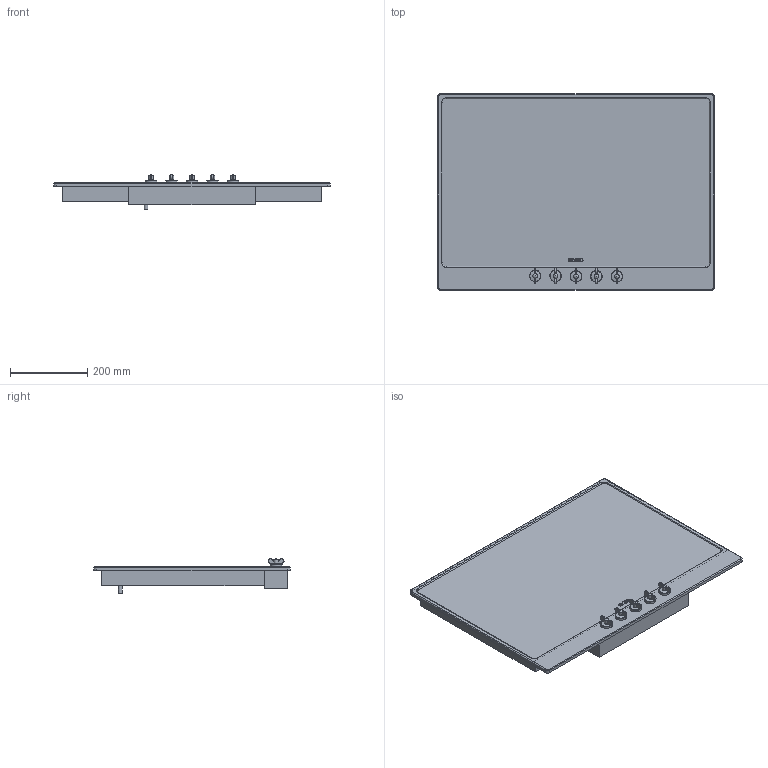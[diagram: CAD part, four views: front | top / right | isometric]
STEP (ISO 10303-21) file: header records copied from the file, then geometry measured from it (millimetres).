
FILE_DESCRIPTION(/* description */ (''),/* implementation_level */ '2;1');
FILE_NAME(/* name */ 'piano p875.stp',/* time_stamp */ '2018-10-31T15:29:34+01:00',/* author */ (''),/* organization */ (''),/* preprocessor_version */ 'ST-DEVELOPER v16',/* originating_system */ 'SIEMENS PLM Software NX 11.0',/* authorisation */ '');
FILE_SCHEMA (('AUTOMOTIVE_DESIGN { 1 0 10303 214 3 1 1 1 }'));
Length unit declared in the file: millimetre
Products named in the file (1): gobb249C13F3gdja
Bounding box: 718 x 510 x 89.65 mm (x, y, z)
Volume: 15479547.2 mm3; surface area: 2139347.2 mm2
Topology: 17 solids, 17 shells, 300 faces, 721 edges, 473 vertices
Faces by surface type: plane 147, cylinder 130, torus 13, sphere 5, cone 5
Full cylindrical faces by diameter (mm): 6 x5, 10 x1, 12 x5, 23 x5, 30 x5
Entity records: 8542 total; most frequent: DIRECTION 1559, CARTESIAN_POINT 1432, ORIENTED_EDGE 1320, EDGE_CURVE 660, AXIS2_PLACEMENT_3D 604, VERTEX_POINT 453, EDGE_LOOP 359, LINE 351
